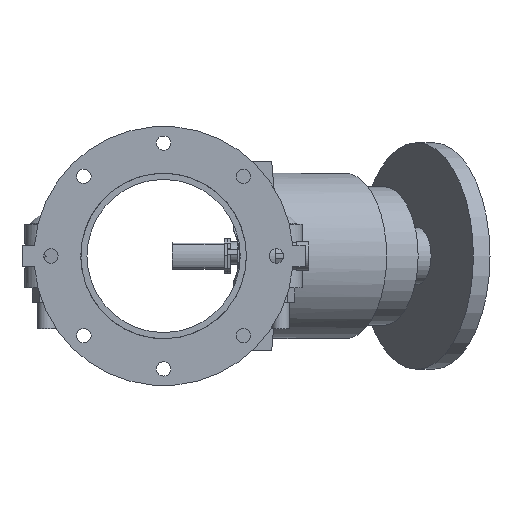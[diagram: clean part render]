
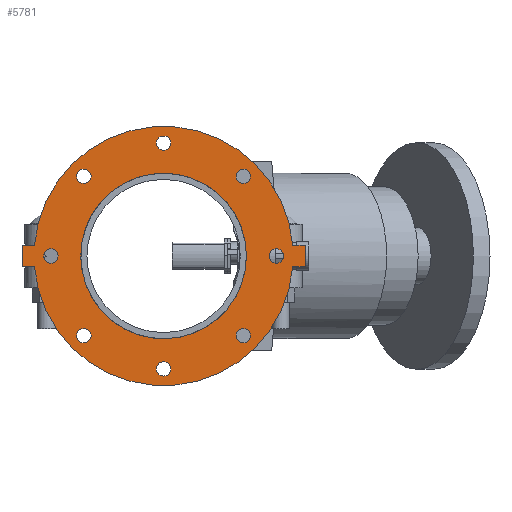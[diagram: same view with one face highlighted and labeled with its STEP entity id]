
A CAD part, front view. The second image highlights one B-rep face of the part: STEP entity #5781.
In plain terms, the highlighted planar face has unit normal (0, -1, 0) as drawn and (0, 0, 1) by its records, which use the part's own axes.
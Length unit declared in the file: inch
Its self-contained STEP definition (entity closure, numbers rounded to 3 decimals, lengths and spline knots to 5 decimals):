
#165=FACE_BOUND('',#751,.T.);
#166=FACE_BOUND('',#752,.T.);
#167=FACE_BOUND('',#753,.T.);
#168=FACE_BOUND('',#754,.T.);
#169=FACE_BOUND('',#755,.T.);
#170=FACE_BOUND('',#756,.T.);
#171=FACE_BOUND('',#757,.T.);
#172=FACE_BOUND('',#758,.T.);
#173=FACE_BOUND('',#759,.T.);
#231=PLANE('',#6292);
#425=FACE_OUTER_BOUND('',#750,.T.);
#750=EDGE_LOOP('',(#3768,#3769,#3770,#3771,#3772,#3773,#3774,#3775));
#751=EDGE_LOOP('',(#3776));
#752=EDGE_LOOP('',(#3777));
#753=EDGE_LOOP('',(#3778));
#754=EDGE_LOOP('',(#3779));
#755=EDGE_LOOP('',(#3780));
#756=EDGE_LOOP('',(#3781));
#757=EDGE_LOOP('',(#3782));
#758=EDGE_LOOP('',(#3783));
#759=EDGE_LOOP('',(#3784,#3785));
#1127=LINE('',#8818,#1562);
#1128=LINE('',#8821,#1563);
#1131=LINE('',#8826,#1566);
#1132=LINE('',#8829,#1567);
#1134=LINE('',#8832,#1569);
#1135=LINE('',#8834,#1570);
#1562=VECTOR('',#7027,0.3937);
#1563=VECTOR('',#7030,0.3937);
#1566=VECTOR('',#7035,0.3937);
#1567=VECTOR('',#7038,0.3937);
#1569=VECTOR('',#7042,0.3937);
#1570=VECTOR('',#7045,0.3937);
#1977=CIRCLE('',#6251,0.375);
#1979=CIRCLE('',#6254,0.375);
#1981=CIRCLE('',#6257,0.375);
#1983=CIRCLE('',#6260,0.375);
#1985=CIRCLE('',#6263,0.375);
#1987=CIRCLE('',#6266,0.375);
#1989=CIRCLE('',#6269,0.375);
#1991=CIRCLE('',#6272,0.375);
#1997=CIRCLE('',#6280,6.75);
#1998=CIRCLE('',#6282,4.3125);
#1999=CIRCLE('',#6283,4.3125);
#2000=CIRCLE('',#6285,6.75);
#2298=VERTEX_POINT('',#8729);
#2300=VERTEX_POINT('',#8735);
#2302=VERTEX_POINT('',#8741);
#2304=VERTEX_POINT('',#8747);
#2306=VERTEX_POINT('',#8753);
#2308=VERTEX_POINT('',#8759);
#2310=VERTEX_POINT('',#8765);
#2312=VERTEX_POINT('',#8771);
#2324=VERTEX_POINT('',#8798);
#2325=VERTEX_POINT('',#8800);
#2326=VERTEX_POINT('',#8804);
#2327=VERTEX_POINT('',#8806);
#2328=VERTEX_POINT('',#8810);
#2329=VERTEX_POINT('',#8812);
#2330=VERTEX_POINT('',#8816);
#2331=VERTEX_POINT('',#8820);
#2332=VERTEX_POINT('',#8824);
#2333=VERTEX_POINT('',#8828);
#2855=EDGE_CURVE('',#2298,#2298,#1977,.T.);
#2858=EDGE_CURVE('',#2300,#2300,#1979,.T.);
#2861=EDGE_CURVE('',#2302,#2302,#1981,.T.);
#2864=EDGE_CURVE('',#2304,#2304,#1983,.T.);
#2867=EDGE_CURVE('',#2306,#2306,#1985,.T.);
#2870=EDGE_CURVE('',#2308,#2308,#1987,.T.);
#2873=EDGE_CURVE('',#2310,#2310,#1989,.T.);
#2876=EDGE_CURVE('',#2312,#2312,#1991,.T.);
#2891=EDGE_CURVE('',#2324,#2325,#1997,.T.);
#2893=EDGE_CURVE('',#2327,#2326,#1998,.T.);
#2894=EDGE_CURVE('',#2326,#2327,#1999,.T.);
#2896=EDGE_CURVE('',#2329,#2328,#2000,.T.);
#2899=EDGE_CURVE('',#2325,#2330,#1127,.T.);
#2900=EDGE_CURVE('',#2331,#2329,#1128,.T.);
#2903=EDGE_CURVE('',#2328,#2332,#1131,.T.);
#2904=EDGE_CURVE('',#2333,#2324,#1132,.T.);
#2906=EDGE_CURVE('',#2332,#2333,#1134,.T.);
#2907=EDGE_CURVE('',#2330,#2331,#1135,.T.);
#3768=ORIENTED_EDGE('',*,*,#2903,.T.);
#3769=ORIENTED_EDGE('',*,*,#2906,.T.);
#3770=ORIENTED_EDGE('',*,*,#2904,.T.);
#3771=ORIENTED_EDGE('',*,*,#2891,.T.);
#3772=ORIENTED_EDGE('',*,*,#2899,.T.);
#3773=ORIENTED_EDGE('',*,*,#2907,.T.);
#3774=ORIENTED_EDGE('',*,*,#2900,.T.);
#3775=ORIENTED_EDGE('',*,*,#2896,.T.);
#3776=ORIENTED_EDGE('',*,*,#2855,.T.);
#3777=ORIENTED_EDGE('',*,*,#2858,.T.);
#3778=ORIENTED_EDGE('',*,*,#2861,.T.);
#3779=ORIENTED_EDGE('',*,*,#2864,.T.);
#3780=ORIENTED_EDGE('',*,*,#2867,.T.);
#3781=ORIENTED_EDGE('',*,*,#2870,.T.);
#3782=ORIENTED_EDGE('',*,*,#2873,.T.);
#3783=ORIENTED_EDGE('',*,*,#2876,.T.);
#3784=ORIENTED_EDGE('',*,*,#2893,.T.);
#3785=ORIENTED_EDGE('',*,*,#2894,.T.);
#5781=ADVANCED_FACE('',(#425,#165,#166,#167,#168,#169,#170,#171,#172,#173),
#231,.T.);
#6251=AXIS2_PLACEMENT_3D('',#8730,#6935,#6936);
#6254=AXIS2_PLACEMENT_3D('',#8736,#6942,#6943);
#6257=AXIS2_PLACEMENT_3D('',#8742,#6949,#6950);
#6260=AXIS2_PLACEMENT_3D('',#8748,#6956,#6957);
#6263=AXIS2_PLACEMENT_3D('',#8754,#6963,#6964);
#6266=AXIS2_PLACEMENT_3D('',#8760,#6970,#6971);
#6269=AXIS2_PLACEMENT_3D('',#8766,#6977,#6978);
#6272=AXIS2_PLACEMENT_3D('',#8772,#6984,#6985);
#6280=AXIS2_PLACEMENT_3D('',#8802,#7009,#7010);
#6282=AXIS2_PLACEMENT_3D('',#8807,#7014,#7015);
#6283=AXIS2_PLACEMENT_3D('',#8808,#7016,#7017);
#6285=AXIS2_PLACEMENT_3D('',#8813,#7021,#7022);
#6292=AXIS2_PLACEMENT_3D('',#8835,#7046,#7047);
#6935=DIRECTION('center_axis',(0.,0.,-1.));
#6936=DIRECTION('ref_axis',(-0.707,0.707,0.));
#6942=DIRECTION('center_axis',(0.,0.,-1.));
#6943=DIRECTION('ref_axis',(0.,1.,0.));
#6949=DIRECTION('center_axis',(0.,0.,-1.));
#6950=DIRECTION('ref_axis',(0.707,0.707,0.));
#6956=DIRECTION('center_axis',(0.,0.,-1.));
#6957=DIRECTION('ref_axis',(1.,0.,0.));
#6963=DIRECTION('center_axis',(0.,0.,-1.));
#6964=DIRECTION('ref_axis',(0.707,-0.707,0.));
#6970=DIRECTION('center_axis',(0.,0.,-1.));
#6971=DIRECTION('ref_axis',(0.,-1.,0.));
#6977=DIRECTION('center_axis',(0.,0.,-1.));
#6978=DIRECTION('ref_axis',(-0.707,-0.707,0.));
#6984=DIRECTION('center_axis',(0.,0.,-1.));
#6985=DIRECTION('ref_axis',(-1.,0.,0.));
#7009=DIRECTION('center_axis',(0.,0.,1.));
#7010=DIRECTION('ref_axis',(-1.,0.,0.));
#7014=DIRECTION('center_axis',(0.,0.,-1.));
#7015=DIRECTION('ref_axis',(-1.,0.,0.));
#7016=DIRECTION('center_axis',(0.,0.,-1.));
#7017=DIRECTION('ref_axis',(-1.,0.,0.));
#7021=DIRECTION('center_axis',(0.,0.,1.));
#7022=DIRECTION('ref_axis',(-1.,0.,0.));
#7027=DIRECTION('',(0.,1.,0.));
#7030=DIRECTION('',(0.,-1.,0.));
#7035=DIRECTION('',(0.,-1.,0.));
#7038=DIRECTION('',(0.,1.,0.));
#7042=DIRECTION('',(1.,0.,0.));
#7045=DIRECTION('',(-1.,0.,0.));
#7046=DIRECTION('center_axis',(0.,0.,1.));
#7047=DIRECTION('ref_axis',(1.,0.,0.));
#8729=CARTESIAN_POINT('',(-3.88909,3.88909,0.565));
#8730=CARTESIAN_POINT('Origin',(-4.15425,4.15425,0.565));
#8735=CARTESIAN_POINT('',(0.,5.5,0.565));
#8736=CARTESIAN_POINT('Origin',(0.,5.875,0.565));
#8741=CARTESIAN_POINT('',(3.88909,3.88909,0.565));
#8742=CARTESIAN_POINT('Origin',(4.15425,4.15425,0.565));
#8747=CARTESIAN_POINT('',(5.5,0.,0.565));
#8748=CARTESIAN_POINT('Origin',(5.875,0.,0.565));
#8753=CARTESIAN_POINT('',(3.88909,-3.88909,0.565));
#8754=CARTESIAN_POINT('Origin',(4.15425,-4.15425,0.565));
#8759=CARTESIAN_POINT('',(0.,-5.5,0.565));
#8760=CARTESIAN_POINT('Origin',(0.,-5.875,0.565));
#8765=CARTESIAN_POINT('',(-3.88909,-3.88909,0.565));
#8766=CARTESIAN_POINT('Origin',(-4.15425,-4.15425,0.565));
#8771=CARTESIAN_POINT('',(-5.5,0.,0.565));
#8772=CARTESIAN_POINT('Origin',(-5.875,0.,0.565));
#8798=CARTESIAN_POINT('',(0.565,-6.72631,0.565));
#8800=CARTESIAN_POINT('',(0.565,6.72631,0.565));
#8802=CARTESIAN_POINT('Origin',(0.,0.,0.565));
#8804=CARTESIAN_POINT('',(4.3125,0.,0.565));
#8806=CARTESIAN_POINT('',(0.565,4.27533,0.565));
#8807=CARTESIAN_POINT('Origin',(0.,0.,0.565));
#8808=CARTESIAN_POINT('Origin',(0.,0.,0.565));
#8810=CARTESIAN_POINT('',(-0.565,-6.72631,0.565));
#8812=CARTESIAN_POINT('',(-0.565,6.72631,0.565));
#8813=CARTESIAN_POINT('Origin',(0.,0.,0.565));
#8816=CARTESIAN_POINT('',(0.565,7.375,0.565));
#8818=CARTESIAN_POINT('',(0.565,7.375,0.565));
#8820=CARTESIAN_POINT('',(-0.565,7.375,0.565));
#8821=CARTESIAN_POINT('',(-0.565,-7.375,0.565));
#8824=CARTESIAN_POINT('',(-0.565,-7.375,0.565));
#8826=CARTESIAN_POINT('',(-0.565,-7.375,0.565));
#8828=CARTESIAN_POINT('',(0.565,-7.375,0.565));
#8829=CARTESIAN_POINT('',(0.565,7.375,0.565));
#8832=CARTESIAN_POINT('',(0.565,-7.375,0.565));
#8834=CARTESIAN_POINT('',(-0.565,7.375,0.565));
#8835=CARTESIAN_POINT('Origin',(0.,0.,0.565));
